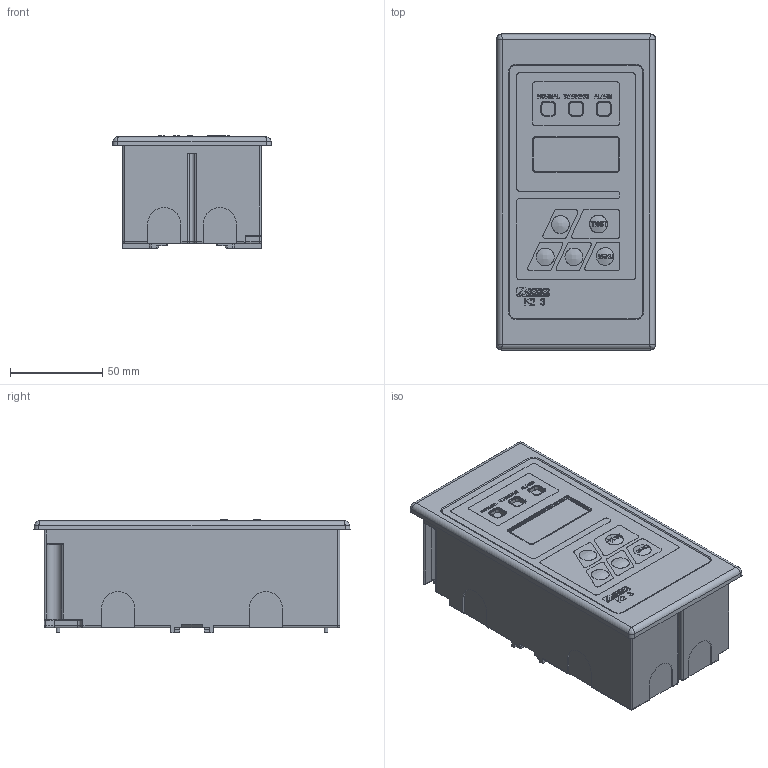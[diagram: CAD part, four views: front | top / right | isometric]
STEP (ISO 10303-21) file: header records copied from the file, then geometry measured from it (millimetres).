
FILE_DESCRIPTION(/* description */ (''),/* implementation_level */ '2;1');
FILE_NAME(/* name */ 'X:\Digidirect\CAD\Importierte Komponenten\MK2430\MK2430.stp',/* time_stamp */ '2013-10-10T11:40:54+02:00',/* author */ ('Maik Jost'),/* organization */ (''),/* preprocessor_version */ 'ST-DEVELOPER v15.2',/* originating_system */ 'Autodesk Inventor 2014',/* authorisation */ '');
FILE_SCHEMA (('CONFIG_CONTROL_DESIGN'));
Length unit declared in the file: millimetre
Products named in the file (2): MK2430_Substitute_1; MK2430
Bounding box: 86 x 171 x 61.4 mm (x, y, z)
Surface area: 85095.4 mm2 (no closed solid volume)
Topology: 0 solids, 37 shells, 367 faces, 1793 edges, 1442 vertices
Faces by surface type: plane 207, cylinder 119, bspline 21, torus 12, sphere 8
Full cylindrical faces by diameter (mm): 2.6 x2, 3.1 x2
Entity records: 21711 total; most frequent: CARTESIAN_POINT 7757, DIRECTION 2645, ORIENTED_EDGE 2556, EDGE_CURVE 1775, VERTEX_POINT 1442, LINE 1181, VECTOR 1181, AXIS2_PLACEMENT_3D 732
